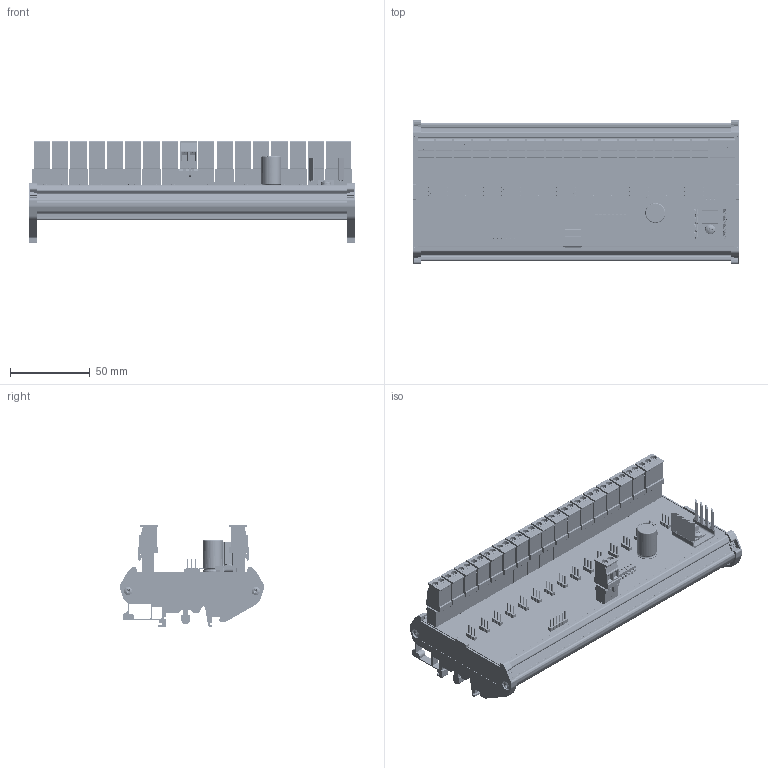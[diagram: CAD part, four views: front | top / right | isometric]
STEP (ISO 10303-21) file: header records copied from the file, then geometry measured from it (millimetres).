
FILE_DESCRIPTION(/* description */ (''),/* implementation_level */ '2;1');
FILE_NAME(/* name */ 'C:/Temp/STEP/DI-16_V200.step',/* time_stamp */ '2020-04-03T13:33:33+03:00',/* author */ (''),/* organization */ (''),/* preprocessor_version */ 'ST-DEVELOPER v18',/* originating_system */ 'Autodesk Translation Framework v8.12.0.6',/* authorisation */ '');
FILE_SCHEMA (('AUTOMOTIVE_DESIGN { 1 0 10303 214 3 1 1 }'));
Products named in the file (1): DI-16_V200
Bounding box: 204 x 89.6 x 64.02 mm (x, y, z)
Volume: 154318.6 mm3; surface area: 165686 mm2
Topology: 127 solids, 127 shells, 10411 faces, 27391 edges, 17844 vertices
Faces by surface type: plane 8183, cylinder 1972, sphere 111, bspline 69, cone 59, torus 17
Full cylindrical faces by diameter (mm): 0.434 x18, 0.457 x18, 0.6 x2, 0.8 x16, 1 x62, 1.4 x111, 1.71 x36, 2.404 x4, 2.8 x38, 3 x3, 3.1 x4, 3.2 x1, 3.78 x1, 3.783 x37, 4 x38, 5.15 x4, 6 x4, 10.5 x2
Entity records: 339525 total; most frequent: CARTESIAN_POINT 66949, ORIENTED_EDGE 54714, DIRECTION 53498, EDGE_CURVE 27357, LINE 21236, VECTOR 21236, VERTEX_POINT 17836, AXIS2_PLACEMENT_3D 16131
